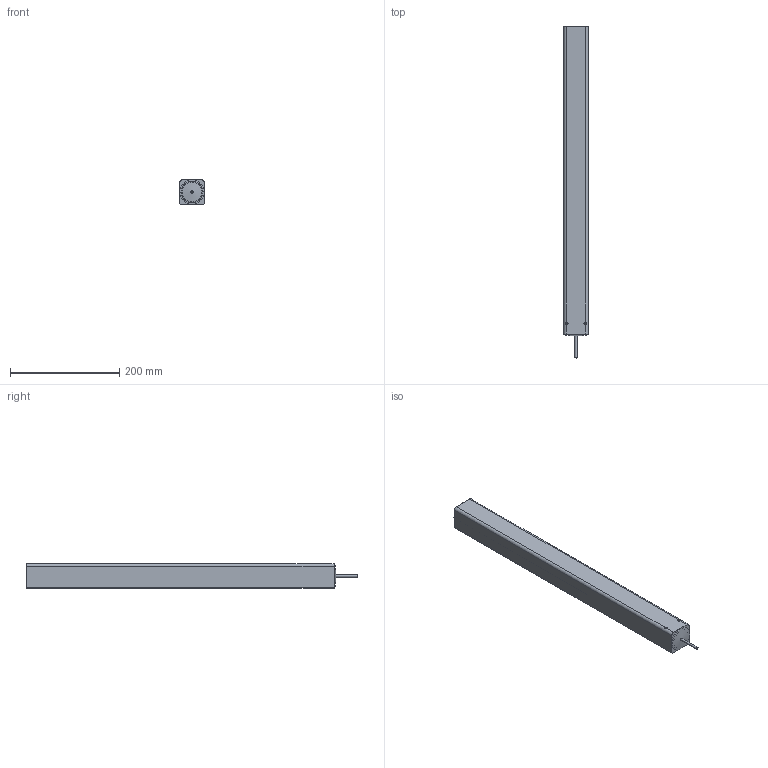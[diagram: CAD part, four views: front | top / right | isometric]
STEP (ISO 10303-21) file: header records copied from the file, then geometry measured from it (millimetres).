
FILE_DESCRIPTION(/* description */ ('Unknown'),/* implementation_level */ '2;1');
FILE_NAME(/* name */ '106.00644_01_eingefahren',/* time_stamp */ '2020-11-11T17:05:53+01:00',/* author */ ('Unknown'),/* organization */ ('Unknown'),/* preprocessor_version */ 'ST-DEVELOPER v16.7',/* originating_system */ 'DEX',/* authorisation */ $);
FILE_SCHEMA (('AUTOMOTIVE_DESIGN {1 0 10303 214 3 1 1}'));
Length unit declared in the file: millimetre
Products named in the file (9): 106.00644; 119.00234; 142.00239; 115.00007_oa_0; 142.00235; 128.00015; 125.00273; 123.00134; 113.00002_70mm
Assembly tree (9 placements, depth 2):
  106.00644
    119.00234
    142.00239  x2
    115.00007_oa_0
    142.00235
    128.00015
    125.00273
    123.00134
    113.00002_70mm
Bounding box: 45 x 606.75 x 45 mm (x, y, z)
Volume: 592282.1 mm3; surface area: 315682.6 mm2
Topology: 8 solids, 8 shells, 149 faces, 358 edges, 227 vertices
Faces by surface type: plane 56, cylinder 50, cone 23, torus 14, sphere 6
Full cylindrical faces by diameter (mm): 2.2 x1, 4 x7, 4.917 x4, 5 x1, 6.647 x1, 8.376 x2, 28.3 x1, 30 x1, 31.8 x3, 32 x1, 35 x2, 36 x4, 38.9 x1, 39 x1, 44 x1, 45 x1
Entity records: 4457 total; most frequent: CARTESIAN_POINT 847, DIRECTION 607, ORIENTED_EDGE 476, AXIS2_PLACEMENT_3D 264, EDGE_CURVE 238, EDGE_LOOP 224, FACE_BOUND 224, VERTEX_POINT 182
